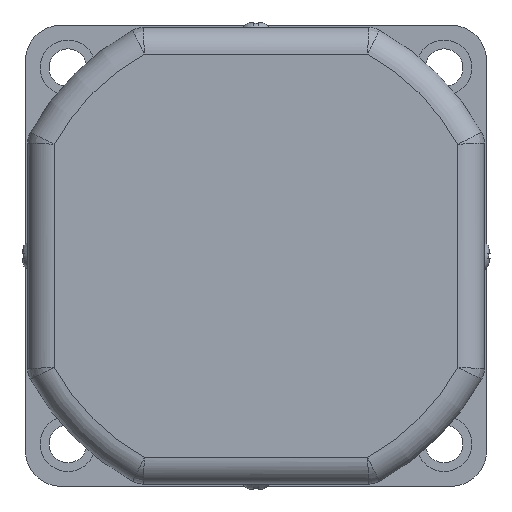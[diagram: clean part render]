
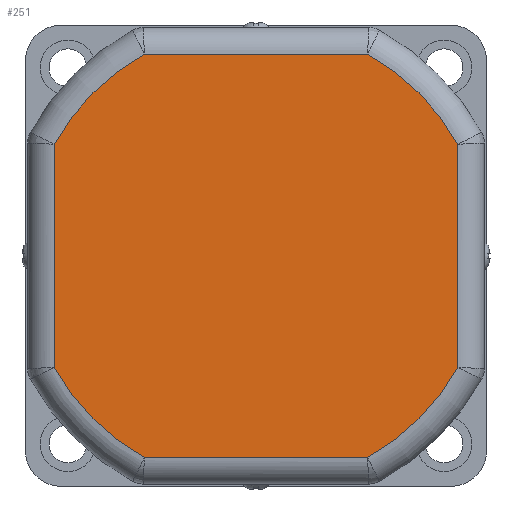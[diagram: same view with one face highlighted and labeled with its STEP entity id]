
A CAD part, left-side view. The second image highlights one B-rep face of the part: STEP entity #251.
In plain terms, the highlighted planar face has unit normal (-1, 0, 0).
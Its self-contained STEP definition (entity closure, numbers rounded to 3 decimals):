
#176=CARTESIAN_POINT('',(-20.,0.,0.));
#177=DIRECTION('',(-1.0,0.0,0.0));
#178=DIRECTION('',(0.0,0.0,1.0));
#179=AXIS2_PLACEMENT_3D('',#176,#177,#178);
#180=PLANE('',#179);
#181=CARTESIAN_POINT('',(-20.,25.174,45.5));
#182=VERTEX_POINT('',#181);
#183=CARTESIAN_POINT('',(-20.,-25.174,45.5));
#184=VERTEX_POINT('',#183);
#185=CARTESIAN_POINT('',(-20.,25.174,45.5));
#186=DIRECTION('',(0.0,-1.0,0.0));
#187=VECTOR('',#186,50.349);
#188=LINE('',#185,#187);
#189=EDGE_CURVE('',#182,#184,#188,.T.);
#190=ORIENTED_EDGE('',*,*,#189,.F.);
#191=CARTESIAN_POINT('',(-20.,45.5,25.174));
#192=VERTEX_POINT('',#191);
#193=CARTESIAN_POINT('',(-20.,0.,0.));
#194=DIRECTION('',(1.0,0.0,0.0));
#195=DIRECTION('',(0.0,0.707,0.707));
#196=AXIS2_PLACEMENT_3D('',#193,#194,#195);
#197=CIRCLE('',#196,52.);
#198=EDGE_CURVE('',#192,#182,#197,.T.);
#199=ORIENTED_EDGE('',*,*,#198,.F.);
#200=CARTESIAN_POINT('',(-20.,45.5,-25.174));
#201=VERTEX_POINT('',#200);
#202=CARTESIAN_POINT('',(-20.,45.5,-25.174));
#203=DIRECTION('',(0.0,0.0,1.0));
#204=VECTOR('',#203,50.349);
#205=LINE('',#202,#204);
#206=EDGE_CURVE('',#201,#192,#205,.T.);
#207=ORIENTED_EDGE('',*,*,#206,.F.);
#208=CARTESIAN_POINT('',(-20.,25.174,-45.5));
#209=VERTEX_POINT('',#208);
#210=CARTESIAN_POINT('',(-20.,0.,0.));
#211=DIRECTION('',(1.0,0.0,0.0));
#212=DIRECTION('',(0.0,0.707,-0.707));
#213=AXIS2_PLACEMENT_3D('',#210,#211,#212);
#214=CIRCLE('',#213,52.);
#215=EDGE_CURVE('',#209,#201,#214,.T.);
#216=ORIENTED_EDGE('',*,*,#215,.F.);
#217=CARTESIAN_POINT('',(-20.,-25.174,-45.5));
#218=VERTEX_POINT('',#217);
#219=CARTESIAN_POINT('',(-20.,-25.174,-45.5));
#220=DIRECTION('',(0.0,1.0,0.0));
#221=VECTOR('',#220,50.349);
#222=LINE('',#219,#221);
#223=EDGE_CURVE('',#218,#209,#222,.T.);
#224=ORIENTED_EDGE('',*,*,#223,.F.);
#225=CARTESIAN_POINT('',(-20.,-45.5,-25.174));
#226=VERTEX_POINT('',#225);
#227=CARTESIAN_POINT('',(-20.,0.,0.));
#228=DIRECTION('',(1.0,0.0,0.0));
#229=DIRECTION('',(0.0,-0.707,-0.707));
#230=AXIS2_PLACEMENT_3D('',#227,#228,#229);
#231=CIRCLE('',#230,52.);
#232=EDGE_CURVE('',#226,#218,#231,.T.);
#233=ORIENTED_EDGE('',*,*,#232,.F.);
#234=CARTESIAN_POINT('',(-20.,-45.5,25.174));
#235=VERTEX_POINT('',#234);
#236=CARTESIAN_POINT('',(-20.,-45.5,25.174));
#237=DIRECTION('',(0.0,0.0,-1.0));
#238=VECTOR('',#237,50.349);
#239=LINE('',#236,#238);
#240=EDGE_CURVE('',#235,#226,#239,.T.);
#241=ORIENTED_EDGE('',*,*,#240,.F.);
#242=CARTESIAN_POINT('',(-20.,0.,0.));
#243=DIRECTION('',(1.0,0.0,0.0));
#244=DIRECTION('',(0.0,-0.707,0.707));
#245=AXIS2_PLACEMENT_3D('',#242,#243,#244);
#246=CIRCLE('',#245,52.);
#247=EDGE_CURVE('',#184,#235,#246,.T.);
#248=ORIENTED_EDGE('',*,*,#247,.F.);
#249=EDGE_LOOP('',(#190,#199,#207,#216,#224,#233,#241,#248));
#250=FACE_OUTER_BOUND('',#249,.T.);
#251=ADVANCED_FACE('',(#250),#180,.T.);
